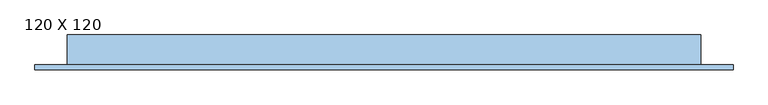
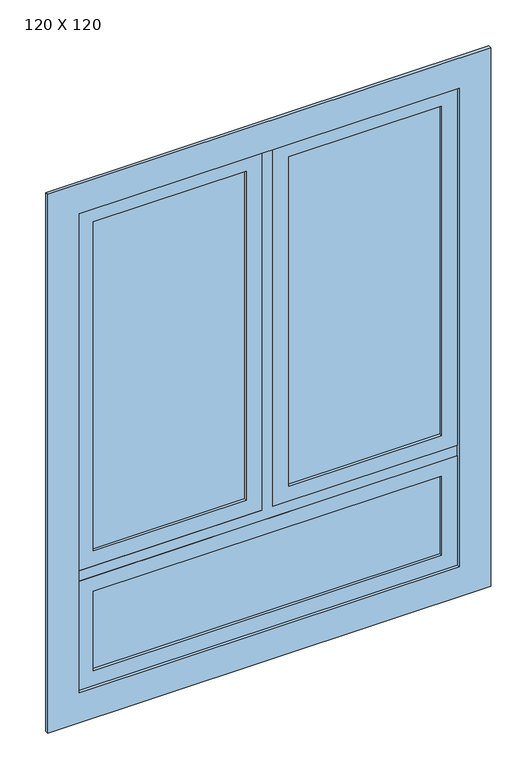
"""IFC4 building model written with IfcOpenShell, lengths in millimetres: window geometry, JANELA COM ESQUADRIA MAXIM-AR - 2 FOLHAS + PEITORIL COM ESQUADRIA FIXA - 1 FOLHA : 120 X 120."""

from ifc_helpers import new_model, si_unit, frame, origin, place, context, project, spatial, polyline, outline, extrude, source, transform, mapped, element, save


def window_120_x_120_eb8e6252(model_context):
    return source(origin(), model_context, "Body", "SweptSolid", [
        extrude(outline(polyline([(196.9035509, -60.3758395), (679.4035509, -60.3758395), (679.4035509, -66.3758395), (196.9035509, -66.3758395), (196.9035509, -60.3758395)])), frame((0.0, 0.0, 1050.0), z_axis=(0.0, 0.0, 1.0), x_axis=(1.0, 0.0, 0.0)), (0.0, 0.0, 1.0), 1100.0),
        extrude(outline(polyline([(2200.0, 146.9035509), (1000.0, 146.9035509), (1000.0, 729.4035509), (2200.0, 729.4035509), (2200.0, 146.9035509)]), holes=[polyline([(2150.0, 196.9035509), (2150.0, 679.4035509), (1050.0, 679.4035509), (1050.0, 196.9035509), (2150.0, 196.9035509)])]), frame((0.0, -75.8758395, 0.0), z_axis=(0.0, 1.0, 0.0), x_axis=(0.0, 0.0, 1.0)), (0.0, 0.0, 1.0), 25.0),
        extrude(outline(polyline([(-420.5964491, -60.3758395), (679.4035509, -60.3758395), (679.4035509, -66.3758395), (-420.5964491, -66.3758395), (-420.5964491, -60.3758395)])), frame((0.0, 0.0, 650.0), z_axis=(0.0, 0.0, 1.0), x_axis=(1.0, 0.0, 0.0)), (0.0, 0.0, 1.0), 265.0),
        extrude(outline(polyline([(965.0, -470.5964491), (600.0, -470.5964491), (600.0, 729.4035509), (965.0, 729.4035509), (965.0, -470.5964491)]), holes=[polyline([(915.0, -420.5964491), (915.0, 679.4035509), (650.0, 679.4035509), (650.0, -420.5964491), (915.0, -420.5964491)])]), frame((0.0, -75.8758395, 0.0), z_axis=(0.0, 1.0, 0.0), x_axis=(0.0, 0.0, 1.0)), (0.0, 0.0, 1.0), 25.0),
        extrude(outline(polyline([(-420.5964491, -60.3758395), (61.9035509, -60.3758395), (61.9035509, -66.3758395), (-420.5964491, -66.3758395), (-420.5964491, -60.3758395)])), frame((0.0, 0.0, 1050.0), z_axis=(0.0, 0.0, 1.0), x_axis=(1.0, 0.0, 0.0)), (0.0, 0.0, 1.0), 1100.0),
        extrude(outline(polyline([(2200.0, -470.5964491), (1000.0, -470.5964491), (1000.0, 111.9035509), (2200.0, 111.9035509), (2200.0, -470.5964491)]), holes=[polyline([(2150.0, -420.5964491), (2150.0, 61.9035509), (1050.0, 61.9035509), (1050.0, -420.5964491), (2150.0, -420.5964491)])]), frame((0.0, -75.8758395, 0.0), z_axis=(0.0, 1.0, 0.0), x_axis=(0.0, 0.0, 1.0)), (0.0, 0.0, 1.0), 25.0),
        extrude(outline(polyline([(500.0, -570.5964491), (500.0, 829.4035509), (2300.0, 829.4035509), (2300.0, -570.5964491), (500.0, -570.5964491)]), holes=[polyline([(2200.0, -470.5964491), (2200.0, 729.4035509), (600.0, 729.4035509), (600.0, -470.5964491), (2200.0, -470.5964491)])]), frame((0.0, -85.8758395, 0.0), z_axis=(0.0, 1.0, 0.0), x_axis=(0.0, 0.0, 1.0)), (0.0, 0.0, 1.0), 10.0),
        extrude(outline(polyline([(2200.0, 764.4035509), (2200.0, 729.4035509), (1000.0, 729.4035509), (1000.0, 146.9035509), (2200.0, 146.9035509), (2200.0, 111.9035509), (1000.0, 111.9035509), (1000.0, -470.5964491), (2200.0, -470.5964491), (2200.0, -505.5964491), (600.0, -505.5964491), (600.0, -470.5964491), (965.0, -470.5964491), (965.0, 729.4035509), (600.0, 729.4035509), (600.0, 764.4035509), (2200.0, 764.4035509)])), frame((0.0, -75.8758395, 0.0), z_axis=(0.0, 1.0, 0.0), x_axis=(0.0, 0.0, 1.0)), (0.0, 0.0, 1.0), 60.0),
        extrude(outline(polyline([(-505.5964491, -15.8758395), (764.4035509, -15.8758395), (764.4035509, -75.8758395), (-505.5964491, -75.8758395), (-505.5964491, -15.8758395)])), frame((0.0, 0.0, 565.0), z_axis=(0.0, 0.0, 1.0), x_axis=(1.0, 0.0, 0.0)), (0.0, 0.0, 1.0), 35.0),
        extrude(outline(polyline([(-505.5964491, -15.8758395), (764.4035509, -15.8758395), (764.4035509, -75.8758395), (-505.5964491, -75.8758395), (-505.5964491, -15.8758395)])), frame((0.0, 0.0, 2200.0), z_axis=(0.0, 0.0, 1.0), x_axis=(1.0, 0.0, 0.0)), (0.0, 0.0, 1.0), 35.0),
    ])


if __name__ == "__main__":
    model = new_model("IFC4")
    model_context = context("Model", 3, world=origin())
    ifc_project = project(units=[si_unit("LENGTHUNIT", "METRE", prefix="MILLI")], contexts=[model_context])
    site = spatial("IfcSite", under=ifc_project)
    building = spatial("IfcBuilding", under=site)
    placement = place(None, origin())
    window_120_x_120_shape = window_120_x_120_eb8e6252(model_context)
    element("IfcWindow", 1, ObjectType="JANELA COM ESQUADRIA MAXIM-AR - 2 FOLHAS + PEITORIL COM ESQUADRIA FIXA - 1 FOLHA : 120 X 120", at=placement, inside=building, context=model_context, shape_type="MappedRepresentation", body=[
        mapped(window_120_x_120_shape, transform((0.0, 0.0, 0.0), x_axis=(1.0, 0.0, 0.0), y_axis=(0.0, 1.0, 0.0), z_axis=(0.0, 0.0, 1.0))),
    ])
    save(model, "model.ifc")
